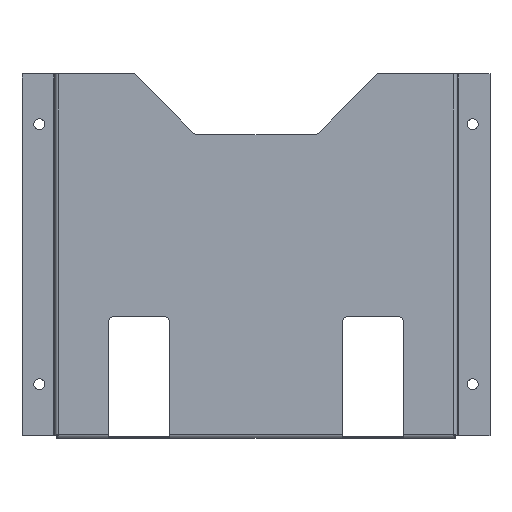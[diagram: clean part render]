
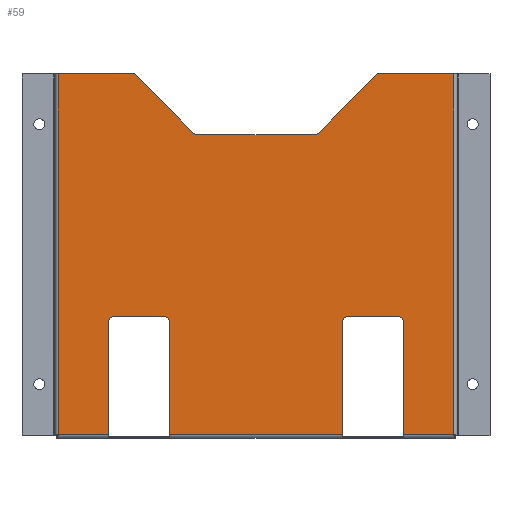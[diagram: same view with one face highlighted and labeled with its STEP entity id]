
A CAD part, top view. The second image highlights one B-rep face of the part: STEP entity #59.
In plain terms, the highlighted planar face has unit normal (0, 0, 1).
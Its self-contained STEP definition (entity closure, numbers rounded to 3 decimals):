
#59=ADVANCED_FACE('',(#183),#185,.T.);
#183=FACE_BOUND('',#184,.T.);
#184=EDGE_LOOP('',(#895,#896,#897,#898,#899,#900,#901,#902,#903,#904,#905,#906,#907,
#908,#909,#910,#911,#912,#913,#914,#915,#916));
#185=PLANE('',#186);
#186=AXIS2_PLACEMENT_3D('',#187,#188,#189);
#187=CARTESIAN_POINT('',(116.,-105.,0.));
#188=DIRECTION('',(0.,0.,1.));
#189=DIRECTION('',(1.,0.,0.));
#895=ORIENTED_EDGE('',*,*,#1282,.T.);
#896=ORIENTED_EDGE('',*,*,#1283,.F.);
#897=ORIENTED_EDGE('',*,*,#1284,.T.);
#898=ORIENTED_EDGE('',*,*,#1285,.F.);
#899=ORIENTED_EDGE('',*,*,#1286,.T.);
#900=ORIENTED_EDGE('',*,*,#1287,.F.);
#901=ORIENTED_EDGE('',*,*,#1257,.T.);
#902=ORIENTED_EDGE('',*,*,#1288,.T.);
#903=ORIENTED_EDGE('',*,*,#1289,.T.);
#904=ORIENTED_EDGE('',*,*,#1290,.F.);
#905=ORIENTED_EDGE('',*,*,#1291,.T.);
#906=ORIENTED_EDGE('',*,*,#1292,.F.);
#907=ORIENTED_EDGE('',*,*,#1293,.T.);
#908=ORIENTED_EDGE('',*,*,#1294,.F.);
#909=ORIENTED_EDGE('',*,*,#1295,.T.);
#910=ORIENTED_EDGE('',*,*,#1296,.F.);
#911=ORIENTED_EDGE('',*,*,#1297,.T.);
#912=ORIENTED_EDGE('',*,*,#1298,.F.);
#913=ORIENTED_EDGE('',*,*,#1299,.T.);
#914=ORIENTED_EDGE('',*,*,#1300,.F.);
#915=ORIENTED_EDGE('',*,*,#1301,.T.);
#916=ORIENTED_EDGE('',*,*,#1302,.T.);
#1257=EDGE_CURVE('',#1459,#1460,#1461,.T.);
#1282=EDGE_CURVE('',#1508,#1509,#1510,.T.);
#1283=EDGE_CURVE('',#1511,#1509,#1512,.T.);
#1284=EDGE_CURVE('',#1511,#1513,#1514,.T.);
#1285=EDGE_CURVE('',#1515,#1513,#1516,.T.);
#1286=EDGE_CURVE('',#1515,#1517,#1518,.T.);
#1287=EDGE_CURVE('',#1459,#1517,#1519,.T.);
#1288=EDGE_CURVE('',#1460,#1520,#1521,.T.);
#1289=EDGE_CURVE('',#1520,#1522,#1523,.T.);
#1290=EDGE_CURVE('',#1524,#1522,#1525,.T.);
#1291=EDGE_CURVE('',#1524,#1526,#1527,.T.);
#1292=EDGE_CURVE('',#1528,#1526,#1529,.T.);
#1293=EDGE_CURVE('',#1528,#1530,#1531,.T.);
#1294=EDGE_CURVE('',#1532,#1530,#1533,.T.);
#1295=EDGE_CURVE('',#1532,#1534,#1535,.T.);
#1296=EDGE_CURVE('',#1536,#1534,#1537,.T.);
#1297=EDGE_CURVE('',#1536,#1538,#1539,.T.);
#1298=EDGE_CURVE('',#1540,#1538,#1541,.T.);
#1299=EDGE_CURVE('',#1540,#1542,#1543,.T.);
#1300=EDGE_CURVE('',#1544,#1542,#1545,.T.);
#1301=EDGE_CURVE('',#1544,#1546,#1547,.T.);
#1302=EDGE_CURVE('',#1546,#1508,#1548,.T.);
#1459=VERTEX_POINT('',#1793);
#1460=VERTEX_POINT('',#1794);
#1461=LINE('',#1795,#1796);
#1508=VERTEX_POINT('',#1898);
#1509=VERTEX_POINT('',#1899);
#1510=LINE('',#1900,#1901);
#1511=VERTEX_POINT('',#1903);
#1512=LINE('',#1904,#1905);
#1513=VERTEX_POINT('',#1907);
#1514=CIRCLE('',#1908,3.15);
#1515=VERTEX_POINT('',#1912);
#1516=LINE('',#1913,#1914);
#1517=VERTEX_POINT('',#1916);
#1518=CIRCLE('',#1917,3.15);
#1519=LINE('',#1921,#1922);
#1520=VERTEX_POINT('',#1924);
#1521=LINE('',#1925,#1926);
#1522=VERTEX_POINT('',#1928);
#1523=LINE('',#1929,#1930);
#1524=VERTEX_POINT('',#1932);
#1525=LINE('',#1933,#1934);
#1526=VERTEX_POINT('',#1936);
#1527=CIRCLE('',#1937,3.15);
#1528=VERTEX_POINT('',#1941);
#1529=LINE('',#1942,#1943);
#1530=VERTEX_POINT('',#1945);
#1531=CIRCLE('',#1946,3.15);
#1532=VERTEX_POINT('',#1950);
#1533=LINE('',#1951,#1952);
#1534=VERTEX_POINT('',#1954);
#1535=LINE('',#1955,#1956);
#1536=VERTEX_POINT('',#1958);
#1537=LINE('',#1959,#1960);
#1538=VERTEX_POINT('',#1962);
#1539=CIRCLE('',#1963,3.15);
#1540=VERTEX_POINT('',#1967);
#1541=LINE('',#1968,#1969);
#1542=VERTEX_POINT('',#1971);
#1543=CIRCLE('',#1972,3.15);
#1544=VERTEX_POINT('',#1976);
#1545=LINE('',#1977,#1978);
#1546=VERTEX_POINT('',#1980);
#1547=LINE('',#1981,#1982);
#1548=LINE('',#1984,#1985);
#1793=CARTESIAN_POINT('',(-70.,105.,0.));
#1794=CARTESIAN_POINT('',(-114.,105.,0.));
#1795=CARTESIAN_POINT('',(-70.,105.,0.));
#1796=VECTOR('',#1797,1.);
#1797=DIRECTION('',(-1.,0.,0.));
#1898=CARTESIAN_POINT('',(114.,105.,0.));
#1899=CARTESIAN_POINT('',(70.,105.,0.));
#1900=CARTESIAN_POINT('',(114.,105.,0.));
#1901=VECTOR('',#1902,1.);
#1902=DIRECTION('',(-1.,0.,0.));
#1903=CARTESIAN_POINT('',(35.923,70.923,0.));
#1904=CARTESIAN_POINT('',(35.923,70.923,0.));
#1905=VECTOR('',#1906,1.);
#1906=DIRECTION('',(0.707,0.707,0.));
#1907=CARTESIAN_POINT('',(33.695,70.,0.));
#1908=AXIS2_PLACEMENT_3D('',#1909,#1910,#1911);
#1909=CARTESIAN_POINT('',(33.695,73.15,0.));
#1910=DIRECTION('',(0.,0.,-1.));
#1911=DIRECTION('',(0.707,-0.707,0.));
#1912=CARTESIAN_POINT('',(-33.695,70.,0.));
#1913=CARTESIAN_POINT('',(-33.695,70.,0.));
#1914=VECTOR('',#1915,1.);
#1915=DIRECTION('',(1.,0.,0.));
#1916=CARTESIAN_POINT('',(-35.923,70.923,0.));
#1917=AXIS2_PLACEMENT_3D('',#1918,#1919,#1920);
#1918=CARTESIAN_POINT('',(-33.695,73.15,0.));
#1919=DIRECTION('',(0.,0.,-1.));
#1920=DIRECTION('',(0.,-1.,0.));
#1921=CARTESIAN_POINT('',(-70.,105.,0.));
#1922=VECTOR('',#1923,1.);
#1923=DIRECTION('',(0.707,-0.707,0.));
#1924=CARTESIAN_POINT('',(-114.,-103.,0.));
#1925=CARTESIAN_POINT('',(-114.,105.,0.));
#1926=VECTOR('',#1927,1.);
#1927=DIRECTION('',(0.,-1.,0.));
#1928=CARTESIAN_POINT('',(-85.,-103.,0.));
#1929=CARTESIAN_POINT('',(-114.,-103.,0.));
#1930=VECTOR('',#1931,1.);
#1931=DIRECTION('',(1.,0.,0.));
#1932=CARTESIAN_POINT('',(-85.,-38.15,0.));
#1933=CARTESIAN_POINT('',(-85.,-38.15,0.));
#1934=VECTOR('',#1935,1.);
#1935=DIRECTION('',(0.,-1.,0.));
#1936=CARTESIAN_POINT('',(-81.85,-35.,0.));
#1937=AXIS2_PLACEMENT_3D('',#1938,#1939,#1940);
#1938=CARTESIAN_POINT('',(-81.85,-38.15,0.));
#1939=DIRECTION('',(0.,0.,-1.));
#1940=DIRECTION('',(-1.,0.,0.));
#1941=CARTESIAN_POINT('',(-53.15,-35.,0.));
#1942=CARTESIAN_POINT('',(-53.15,-35.,0.));
#1943=VECTOR('',#1944,1.);
#1944=DIRECTION('',(-1.,0.,0.));
#1945=CARTESIAN_POINT('',(-50.,-38.15,0.));
#1946=AXIS2_PLACEMENT_3D('',#1947,#1948,#1949);
#1947=CARTESIAN_POINT('',(-53.15,-38.15,0.));
#1948=DIRECTION('',(0.,0.,-1.));
#1949=DIRECTION('',(0.,1.,0.));
#1950=CARTESIAN_POINT('',(-50.,-103.,0.));
#1951=CARTESIAN_POINT('',(-50.,-103.,0.));
#1952=VECTOR('',#1953,1.);
#1953=DIRECTION('',(0.,1.,0.));
#1954=CARTESIAN_POINT('',(50.,-103.,0.));
#1955=CARTESIAN_POINT('',(-50.,-103.,0.));
#1956=VECTOR('',#1957,1.);
#1957=DIRECTION('',(1.,0.,0.));
#1958=CARTESIAN_POINT('',(50.,-38.15,0.));
#1959=CARTESIAN_POINT('',(50.,-38.15,0.));
#1960=VECTOR('',#1961,1.);
#1961=DIRECTION('',(0.,-1.,0.));
#1962=CARTESIAN_POINT('',(53.15,-35.,0.));
#1963=AXIS2_PLACEMENT_3D('',#1964,#1965,#1966);
#1964=CARTESIAN_POINT('',(53.15,-38.15,0.));
#1965=DIRECTION('',(0.,0.,-1.));
#1966=DIRECTION('',(-1.,0.,0.));
#1967=CARTESIAN_POINT('',(81.85,-35.,0.));
#1968=CARTESIAN_POINT('',(81.85,-35.,0.));
#1969=VECTOR('',#1970,1.);
#1970=DIRECTION('',(-1.,0.,0.));
#1971=CARTESIAN_POINT('',(85.,-38.15,0.));
#1972=AXIS2_PLACEMENT_3D('',#1973,#1974,#1975);
#1973=CARTESIAN_POINT('',(81.85,-38.15,0.));
#1974=DIRECTION('',(0.,0.,-1.));
#1975=DIRECTION('',(0.,1.,0.));
#1976=CARTESIAN_POINT('',(85.,-103.,0.));
#1977=CARTESIAN_POINT('',(85.,-103.,0.));
#1978=VECTOR('',#1979,1.);
#1979=DIRECTION('',(0.,1.,0.));
#1980=CARTESIAN_POINT('',(114.,-103.,0.));
#1981=CARTESIAN_POINT('',(85.,-103.,0.));
#1982=VECTOR('',#1983,1.);
#1983=DIRECTION('',(1.,0.,0.));
#1984=CARTESIAN_POINT('',(114.,-103.,0.));
#1985=VECTOR('',#1986,1.);
#1986=DIRECTION('',(0.,1.,0.));
